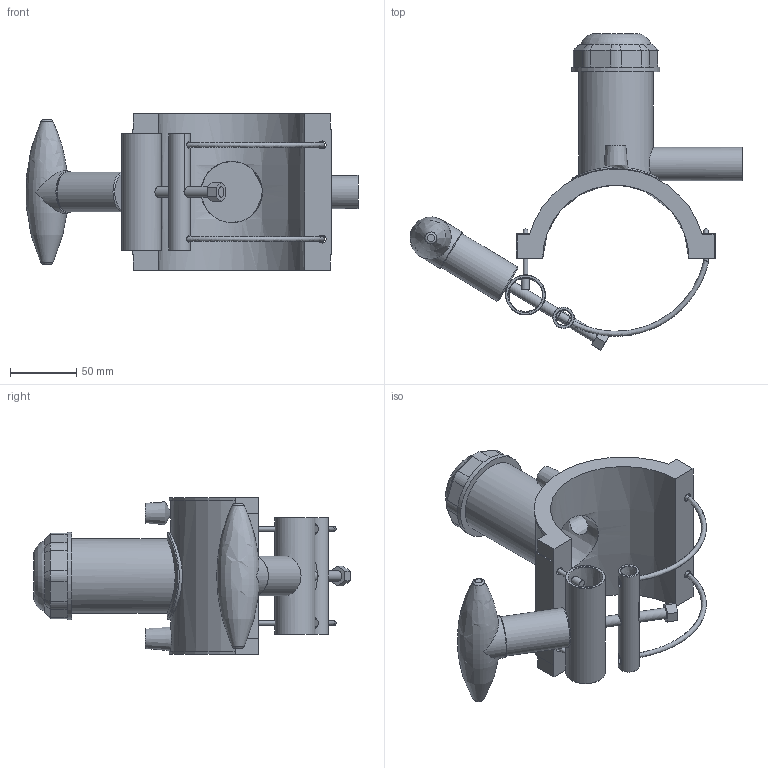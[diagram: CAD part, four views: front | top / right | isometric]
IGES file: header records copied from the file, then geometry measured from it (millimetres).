
Global section: file name: 4963Q4110025.ipt; native system: Autodesk Inventor 2019; preprocessor: unknown; author: KIM; date: 20210307.125202; units: millimetre
Bounding box: 249.89 x 238.16 x 118 mm (x, y, z)
Volume: 546656.2 mm3; surface area: 150602.9 mm2
Topology: 6 solids, 7 shells, 180 faces, 457 edges, 299 vertices
Faces by surface type: plane 87, cylinder 36, revolution 33, cone 15, bspline 9
Full cylindrical faces by diameter (mm): 3.6 x6, 4 x2, 6 x4, 8 x1, 16 x1, 25 x1, 30 x2, 32 x1, 56.1 x1, 66 x2
